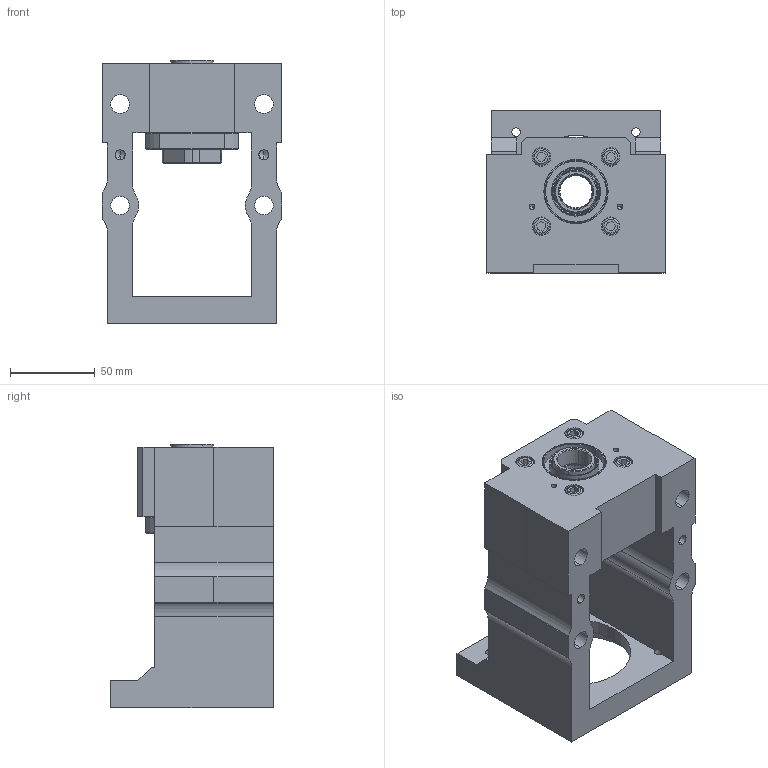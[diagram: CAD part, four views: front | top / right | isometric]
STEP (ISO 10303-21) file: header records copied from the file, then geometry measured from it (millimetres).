
FILE_DESCRIPTION (( 'STEP AP203' ), '1' );
FILE_NAME ('MBCF20H-X組合圖.STEP', '2023-02-03T01:49:28', ( '' ), ( '' ), 'SwSTEP 2.0', 'SolidWorks 2018', '' );
FILE_SCHEMA (( 'CONFIG_CONTROL_DESIGN' ));
Length unit declared in the file: millimetre
Products named in the file (12): 7204內圈; 7204鋼珠7.9375; 7204; EAFK20; MBC20ｻ\_ｬqｮt4mm; 鎖固螺帽(模型組態)_M20; MBC20H-X傳動座_網路用圖; 承頭螺絲-模組_M6L45; AK系列密封圈_AK20密封圈; 7204保持器; 7204外圈; MBCF20H-X組合圖
Assembly tree (27 placements, depth 3):
  MBCF20H-X組合圖
    MBC20H-X傳動座_網路用圖
    7204  x2
      7204外圈
      7204保持器
      7204內圈
      7204鋼珠7.9375
    EAFK20  x2
    MBC20ｻ\_ｬqｮt4mm
    鎖固螺帽(模型組態)_M20
    AK系列密封圈_AK20密封圈  x2
    承頭螺絲-模組_M6L45  x4
Bounding box: 106 x 96 x 156 mm (x, y, z)
Volume: 584677.3 mm3; surface area: 152652.4 mm2
Topology: 39 solids, 39 shells, 621 faces, 1526 edges, 947 vertices
Faces by surface type: cylinder 226, plane 151, torus 116, cone 80, sphere 44, bspline 4
Entity records: 15341 total; most frequent: CARTESIAN_POINT 3962, DIRECTION 2161, ORIENTED_EDGE 1920, EDGE_CURVE 960, AXIS2_PLACEMENT_3D 880, VERTEX_POINT 597, EDGE_LOOP 491, CIRCLE 455
